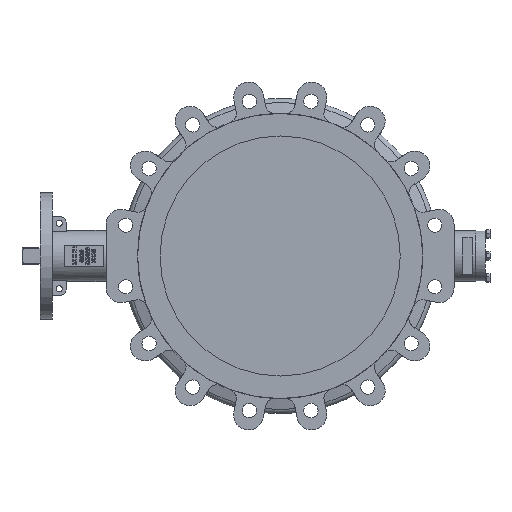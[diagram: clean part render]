
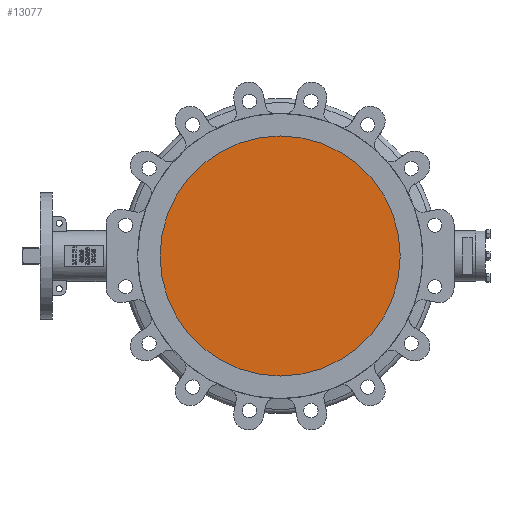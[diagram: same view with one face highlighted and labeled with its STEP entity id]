
A CAD part, left-side view. The second image highlights one B-rep face of the part: STEP entity #13077.
In plain terms, the highlighted planar face has unit normal (-1, 0, 0).
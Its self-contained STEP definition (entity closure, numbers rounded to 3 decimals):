
#483=PLANE('',#13930);
#1579=FACE_OUTER_BOUND('',#2328,.T.);
#2328=EDGE_LOOP('',(#11033));
#4844=CIRCLE('',#13929,200.);
#5978=VERTEX_POINT('',#23682);
#7692=EDGE_CURVE('',#5978,#5978,#4844,.T.);
#11033=ORIENTED_EDGE('',*,*,#7692,.F.);
#13077=ADVANCED_FACE('',(#1579),#483,.F.);
#13929=AXIS2_PLACEMENT_3D('',#23684,#16420,#16421);
#13930=AXIS2_PLACEMENT_3D('',#23685,#16422,#16423);
#16420=DIRECTION('center_axis',(1.,0.,0.));
#16421=DIRECTION('ref_axis',(0.,0.,-1.));
#16422=DIRECTION('center_axis',(1.,0.,0.));
#16423=DIRECTION('ref_axis',(0.,0.,-1.));
#23682=CARTESIAN_POINT('',(-64.811,-7.695,200.));
#23684=CARTESIAN_POINT('Origin',(-64.811,-7.695,0.));
#23685=CARTESIAN_POINT('Origin',(-64.811,-7.695,0.));
